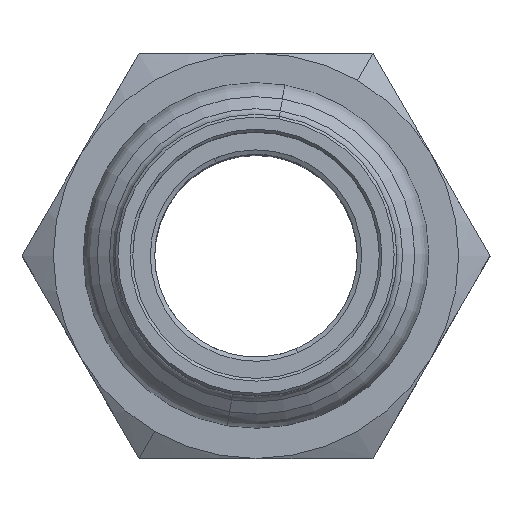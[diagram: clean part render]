
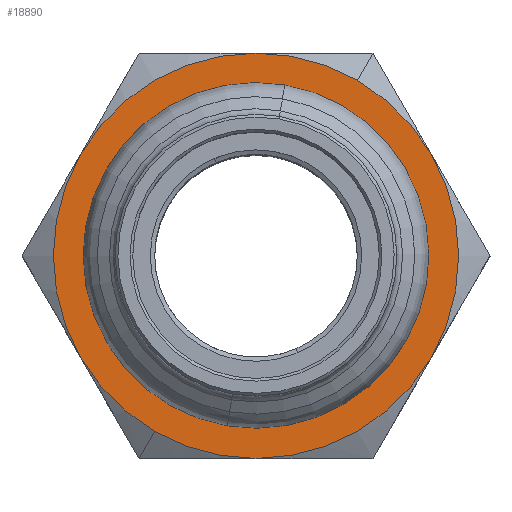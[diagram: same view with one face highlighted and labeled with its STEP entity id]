
A CAD part, top view. The second image highlights one B-rep face of the part: STEP entity #18890.
In plain terms, the highlighted planar face has unit normal (0, 0, 1) as drawn and (0, 0, -1) by its records, which use the part's own axes.
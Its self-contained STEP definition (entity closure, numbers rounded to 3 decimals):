
#18300=CARTESIAN_POINT('',(0.,0.,0.));
#18310=DIRECTION('',(0.,0.,1.));
#18320=DIRECTION('',(1.,0.,0.));
#18330=AXIS2_PLACEMENT_3D('',#18300,#18310,#18320);
#18340=PLANE('',#18330);
#18350=CARTESIAN_POINT('',(42.374,62.436,0.));
#18360=DIRECTION('',(0.,0.,-1.));
#18370=DIRECTION('',(-1.,0.,0.));
#18380=AXIS2_PLACEMENT_3D('',#18350,#18360,#18370);
#18390=CIRCLE('',#18380,12.1);
#18400=CARTESIAN_POINT('',(54.474,62.436,0.));
#18410=VERTEX_POINT('',#18400);
#18420=CARTESIAN_POINT('',(30.274,62.436,0.));
#18430=VERTEX_POINT('',#18420);
#18440=EDGE_CURVE('',#18410,#18430,#18390,.T.);
#18450=ORIENTED_EDGE('',*,*,#18440,.F.);
#18460=EDGE_CURVE('',#18430,#18410,#18390,.T.);
#18470=ORIENTED_EDGE('',*,*,#18460,.F.);
#18480=EDGE_LOOP('',(#18470,#18450));
#18490=FACE_BOUND('',#18480,.T.);
#18500=CARTESIAN_POINT('',(42.374,62.436,0.));
#18510=DIRECTION('',(0.,0.,1.));
#18520=DIRECTION('',(0.5,-0.866,0.));
#18530=AXIS2_PLACEMENT_3D('',#18500,#18510,#18520);
#18540=CIRCLE('',#18530,15.);
#18550=CARTESIAN_POINT('',(55.364,54.936,
0.));
#18560=VERTEX_POINT('',#18550);
#18570=CARTESIAN_POINT('',(55.364,69.936,
0.));
#18580=VERTEX_POINT('',#18570);
#18590=EDGE_CURVE('',#18560,#18580,#18540,.T.);
#18600=ORIENTED_EDGE('',*,*,#18590,.F.);
#18610=CARTESIAN_POINT('',(42.374,77.436,0.));
#18620=VERTEX_POINT('',#18610);
#18630=EDGE_CURVE('',#18580,#18620,#18540,.T.);
#18640=ORIENTED_EDGE('',*,*,#18630,.F.);
#18650=CARTESIAN_POINT('',(34.874,75.427,
0.));
#18660=VERTEX_POINT('',#18650);
#18670=EDGE_CURVE('',#18620,#18660,#18540,.T.);
#18680=ORIENTED_EDGE('',*,*,#18670,.F.);
#18690=CARTESIAN_POINT('',(29.384,69.936,
0.));
#18700=VERTEX_POINT('',#18690);
#18710=EDGE_CURVE('',#18660,#18700,#18540,.T.);
#18720=ORIENTED_EDGE('',*,*,#18710,.F.);
#18730=CARTESIAN_POINT('',(29.384,54.936,
0.));
#18740=VERTEX_POINT('',#18730);
#18750=EDGE_CURVE('',#18700,#18740,#18540,.T.);
#18760=ORIENTED_EDGE('',*,*,#18750,.F.);
#18770=CARTESIAN_POINT('',(42.374,47.436,0.));
#18780=VERTEX_POINT('',#18770);
#18790=EDGE_CURVE('',#18740,#18780,#18540,.T.);
#18800=ORIENTED_EDGE('',*,*,#18790,.F.);
#18810=CARTESIAN_POINT('',(49.874,49.446,
0.));
#18820=VERTEX_POINT('',#18810);
#18830=EDGE_CURVE('',#18780,#18820,#18540,.T.);
#18840=ORIENTED_EDGE('',*,*,#18830,.F.);
#18850=EDGE_CURVE('',#18820,#18560,#18540,.T.);
#18860=ORIENTED_EDGE('',*,*,#18850,.F.);
#18870=EDGE_LOOP('',(#18860,#18840,#18800,#18760,#18720,#18680,#18640,
#18600));
#18880=FACE_OUTER_BOUND('',#18870,.T.);
#18890=ADVANCED_FACE('',(#18490,#18880),#18340,.F.);
